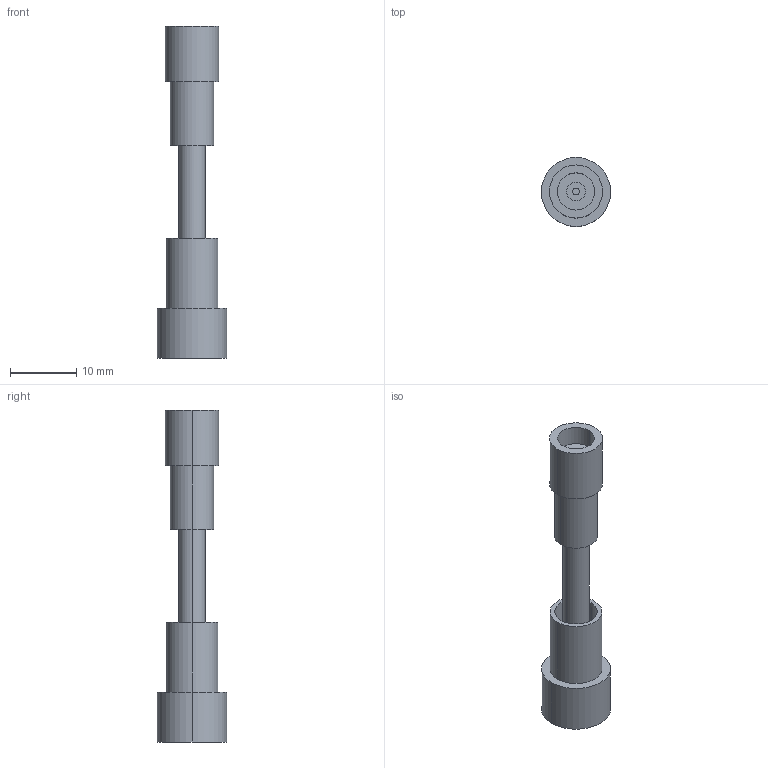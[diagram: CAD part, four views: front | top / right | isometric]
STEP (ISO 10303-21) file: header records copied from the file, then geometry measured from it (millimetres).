
FILE_DESCRIPTION(('STEP AP214'),'1');
FILE_NAME('D:/CSTmws/Pictures/50.75trans1.4.stp','2018-06-30T18:58:13',('Evgeny'),(' '),'Spatial InterOp 3D','CST ACIS InterOp Converter 2009',' ');
FILE_SCHEMA(('automotive_design'));
Length unit declared in the file: millimetre
Products named in the file (6): component1|solid1; component1|solid2; component1|solid3; component1|solid4; component1|solid5; component1|solid6
Bounding box: 10.4 x 10.4 x 50 mm (x, y, z)
Volume: 1401.6 mm3; surface area: 3351.9 mm2
Topology: 6 solids, 6 shells, 61 faces, 120 edges, 80 vertices
Faces by surface type: cylinder 40, plane 21
Entity records: 2263 total; most frequent: DIRECTION 334, CARTESIAN_POINT 267, ORIENTED_EDGE 240, AXIS2_PLACEMENT_3D 147, EDGE_CURVE 120, EDGE_LOOP 80, VERTEX_POINT 80, CIRCLE 80
